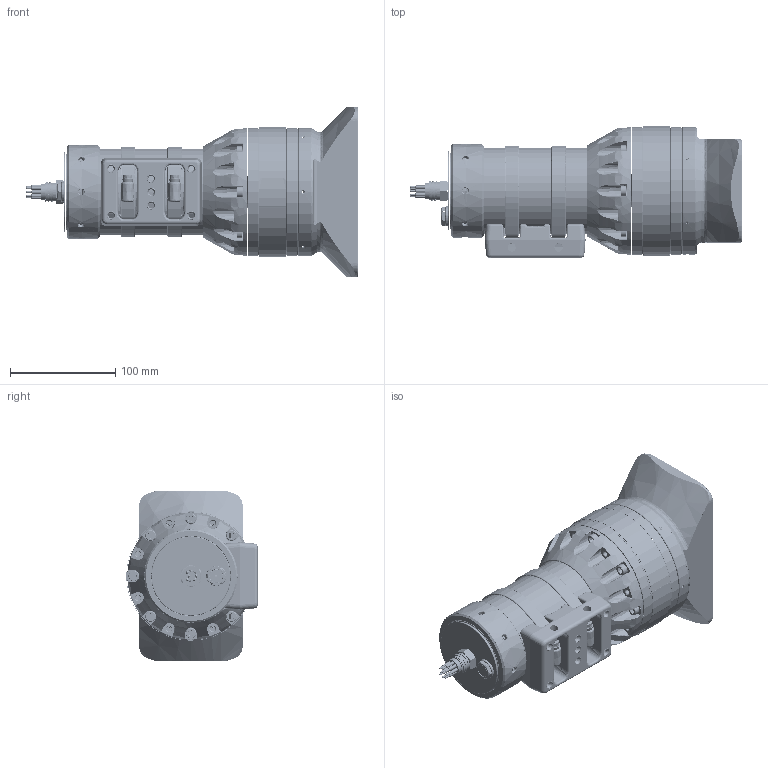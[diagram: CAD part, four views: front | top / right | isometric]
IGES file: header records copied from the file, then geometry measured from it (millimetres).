
Start section: SolidWorks IGES file using analytic representation for surfaces
Global section: file name: S:\3D_Product_Models\Cameras\VSC-SUBMCBH8-0A_20190404a.IGS; native system: SolidWorks 2018; preprocessor: SolidWorks 2018; author: Jason.Buss; date: 190404.100016; units: millimetre
Bounding box: 314.89 x 124.57 x 161.58 mm (x, y, z)
Surface area: 250796.4 mm2 (no closed solid volume)
Topology: 0 solids, 0 shells, 1445 faces, 34228 edges, 34198 vertices
Faces by surface type: bspline 844, revolution 601
